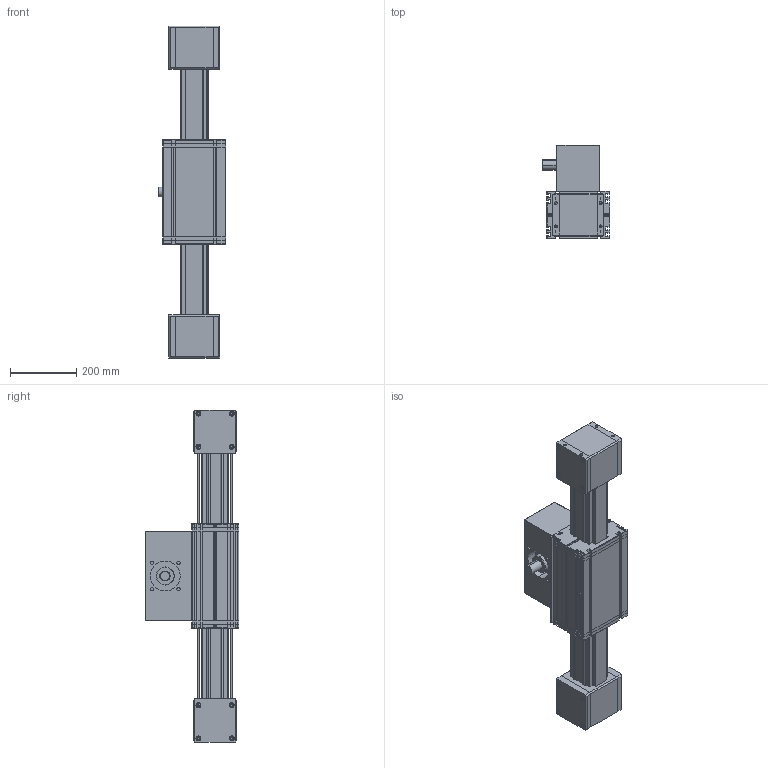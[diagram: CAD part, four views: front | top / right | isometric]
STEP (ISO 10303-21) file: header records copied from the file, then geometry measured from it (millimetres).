
FILE_DESCRIPTION (( 'STEP AP214' ), '1' );
FILE_NAME ('ELFZ80S.STEP', '2023-09-11T08:29:26', ( '' ), ( '' ), 'SwSTEP 2.0', 'SolidWorks 2020', '' );
FILE_SCHEMA (( 'AUTOMOTIVE_DESIGN' ));
Length unit declared in the file: millimetre
Products named in the file (5): ELFZ80S; timing belt reverse unit^ELFZ80S; carriage ^ELFZ80S_carriage version 0; timing belt reverse unit carriage^ELFZ80S_shaft pos. 2; profile^ELFZ80S_standard
Assembly tree (5 placements, depth 2):
  ELFZ80S
    profile^ELFZ80S_standard
    carriage ^ELFZ80S_carriage version 0
    timing belt reverse unit carriage^ELFZ80S_shaft pos. 2
    timing belt reverse unit^ELFZ80S  x2
Bounding box: 203.5 x 281 x 1000 mm (x, y, z)
Volume: 19836481 mm3; surface area: 1742839.3 mm2
Topology: 19 solids, 19 shells, 1408 faces, 3807 edges, 2488 vertices
Faces by surface type: plane 1060, cylinder 274, torus 48, cone 22, sphere 4
Entity records: 40640 total; most frequent: CARTESIAN_POINT 6971, ORIENTED_EDGE 6814, DIRECTION 6405, EDGE_CURVE 3407, LINE 2889, VECTOR 2889, VERTEX_POINT 2244, AXIS2_PLACEMENT_3D 1758
